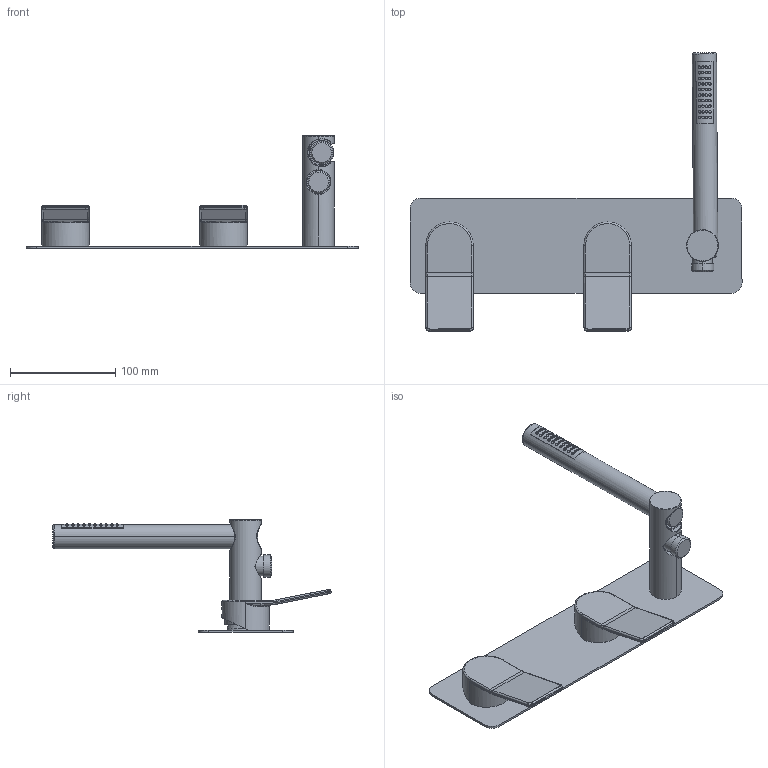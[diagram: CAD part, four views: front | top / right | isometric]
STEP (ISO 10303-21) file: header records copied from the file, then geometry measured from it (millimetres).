
FILE_DESCRIPTION (( 'STEP AP203' ), '1' );
FILE_NAME ('85234910 x architetti.STEP', '2026-06-15T10:26:09', ( '' ), ( '' ), 'SwSTEP 2.0', 'SolidWorks 2020', '' );
FILE_SCHEMA (( 'CONFIG_CONTROL_DESIGN' ));
Length unit declared in the file: millimetre
Products named in the file (1): 85234910 x architetti
Bounding box: 315 x 263.95 x 106.7 mm (x, y, z)
Volume: 277629.5 mm3; surface area: 127154.3 mm2
Topology: 2 solids, 6 shells, 323 faces, 714 edges, 449 vertices
Faces by surface type: cylinder 206, plane 55, bspline 34, cone 16, torus 12
Entity records: 14184 total; most frequent: CARTESIAN_POINT 7521, ORIENTED_EDGE 1416, DIRECTION 1209, EDGE_CURVE 708, AXIS2_PLACEMENT_3D 483, VERTEX_POINT 449, EDGE_LOOP 385, ADVANCED_FACE 323
